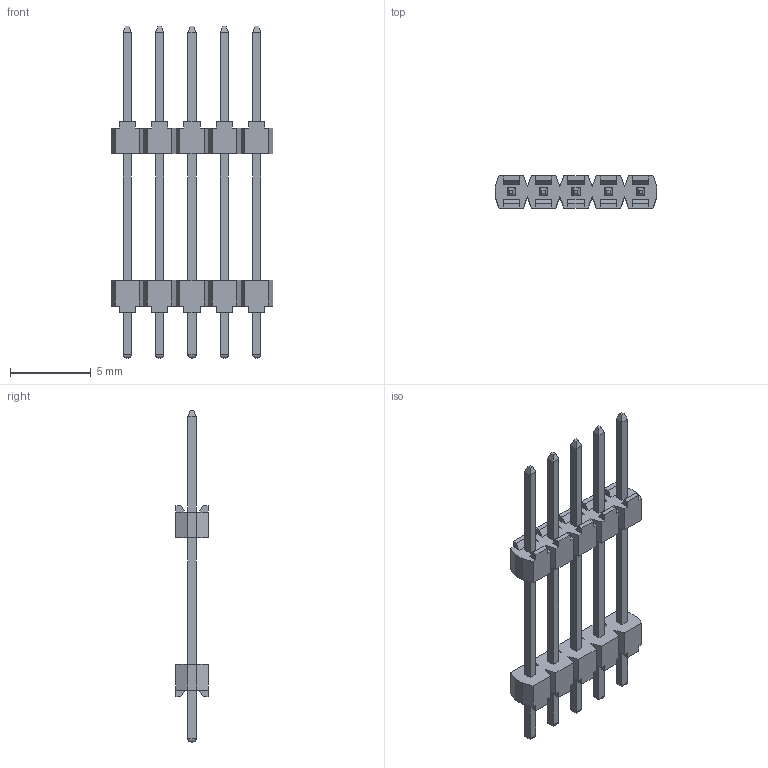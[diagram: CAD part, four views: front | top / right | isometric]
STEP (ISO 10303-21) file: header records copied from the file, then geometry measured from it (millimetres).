
FILE_DESCRIPTION(/* description */ (''),/* implementation_level */ '2;1');
FILE_NAME(/* name */ '951405-9062206-AR',/* time_stamp */ '2007-03-14T14:56:48+01:00',/* author */ (''),/* organization */ (''),/* preprocessor_version */ 'ST-DEVELOPER v9',/* originating_system */ 'UGS - NX 4.0',/* authorisation */ '');
FILE_SCHEMA (('AUTOMOTIVE_DESIGN { 1 0 10303 214 1 1 1 1 }'));
Length unit declared in the file: millimetre
Products named in the file (1): 951405-9062206-AR
Bounding box: 10 x 2 x 20.5 mm (x, y, z)
Volume: 83.1 mm3; surface area: 359.1 mm2
Topology: 1 solids, 1 shells, 258 faces, 692 edges, 448 vertices
Faces by surface type: plane 238, cylinder 20
Entity records: 7896 total; most frequent: CARTESIAN_POINT 1399, ORIENTED_EDGE 1384, DIRECTION 1230, EDGE_CURVE 692, LINE 672, VECTOR 672, VERTEX_POINT 448, AXIS2_PLACEMENT_3D 279
